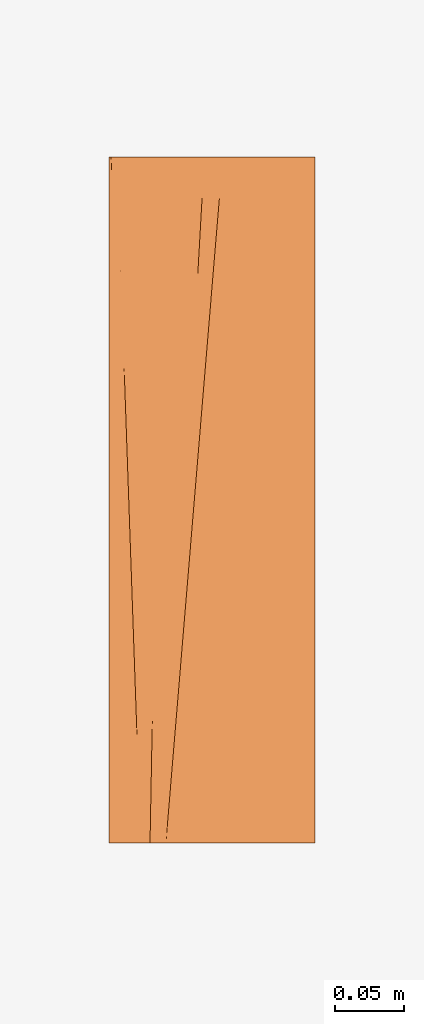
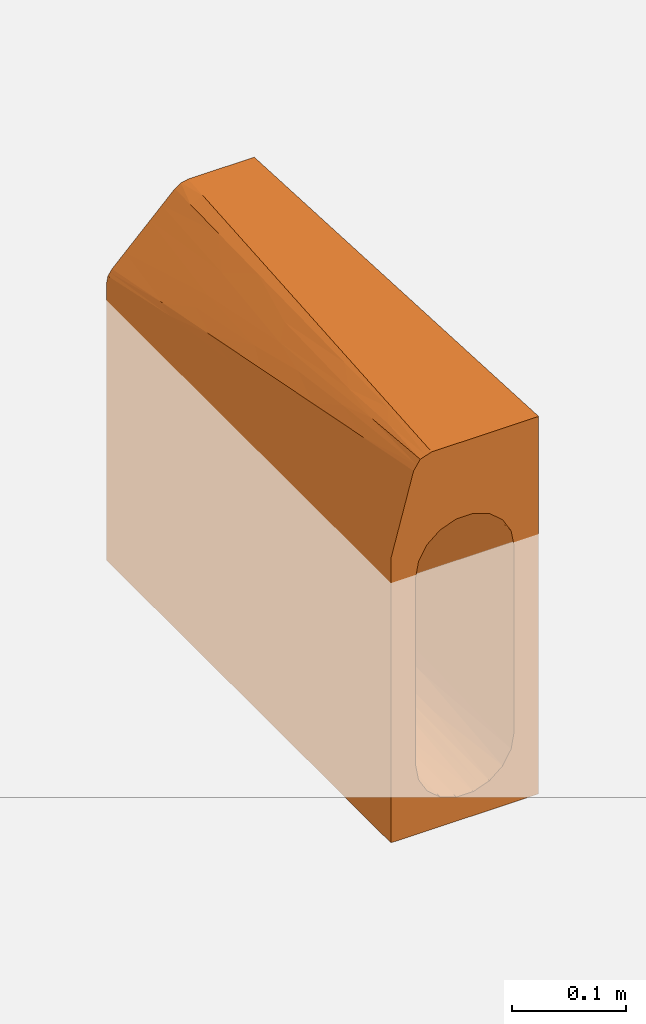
# One storey, part 2 of 2: 1 proxy.
"""IFC2X3 building model written with IfcOpenShell, lengths in millimetres."""

from ifc_helpers import new_model, entity, si_unit, converted_unit, direction, frame, origin, place, context, subcontext, project, spatial, face_set, surface_model, source, transform, mapped, material, element, save


model = new_model("IFC2X3")

# Units and contexts
model_context = context("Model", 3, precision=1e-06, world=origin(), true_north=direction((2.0, 6.12303176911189e-17, 1.0)))
context_of_model = context(None, 3, precision=1e-06, world=origin(), true_north=direction((2.0, 6.12303176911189e-17, 1.0)))
body_context = subcontext(model_context, "Body", "Model", "MODEL_VIEW")
ifc_project = project(units=[si_unit("LENGTHUNIT", "METRE", prefix="MILLI"), si_unit("AREAUNIT", "SQUARE_METRE", prefix="MILLI"), si_unit("VOLUMEUNIT", "CUBIC_METRE", prefix="MILLI"), converted_unit("PLANEANGLEUNIT", "DEGREE", entity("IfcRatioMeasure", 0.0174532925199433), si_unit("PLANEANGLEUNIT", "RADIAN"), dimensions=[0, 0, 0, 0, 0, 0, 0]), si_unit("TIMEUNIT", "SECOND")], contexts=[model_context, context_of_model])

# Site, building, storey
site_placement = place(None, origin())
site = spatial("IfcSite", under=ifc_project, at=site_placement, Name="Default", CompositionType="ELEMENT")
building_placement = place(site_placement, origin())
building = spatial("IfcBuilding", under=site, at=building_placement, CompositionType="ELEMENT")
storey_placement = place(building_placement, origin())
storey = spatial("IfcBuildingStorey", under=building, at=storey_placement, Name="Level 1", CompositionType="ELEMENT", Elevation=0.0)

# Proxy
ifc_material = material(Name="ACO Polymer Concrete.")
shared_shape = source(origin(), body_context, "Body", "SurfaceModel", [
    surface_model("IfcFaceBasedSurfaceModel", [(75.0, 500.0, 100.0), (75.0, 500.0, -280.0), (-75.0, 500.0, -280.0), (-75.0, 500.0, 17.1299423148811), (-73.5537111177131, 500.0, 24.4009275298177), (-69.435028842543, 500.0, 30.5649711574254), (-5.56497115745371, 500.0, 94.4350288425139), (0.599072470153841, 500.0, 98.5537111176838), (7.87005768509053, 500.0, 100.0), (-50.0, 500.0, -30.0), (-50.0, 500.0, -205.0), (-46.9851299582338, 500.0, -222.099636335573), (-38.296791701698, 500.0, -237.145851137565), (-25.0019398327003, 500.0, -248.300150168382), (-8.67336388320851, 500.0, -254.24198167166), (8.6857374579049, 500.0, -254.239800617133), (25.0056026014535, 500.0, -248.298035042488), (38.3111702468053, 500.0, -237.12871354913), (46.9861956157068, 500.0, -222.096707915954), (50.0, 500.0, -205.0), (50.0, 500.0, -30.0), (46.9862114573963, 500.0, -12.9033356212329), (38.3112551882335, 500.0, 2.12861226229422), (25.0056097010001, 500.0, 13.2980309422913), (8.68566893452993, 500.0, 19.2398127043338), (-8.67344575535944, 500.0, 19.2419672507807), (-25.0021080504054, 500.0, 13.3000530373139), (-38.2969351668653, 500.0, 2.14568022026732), (-46.9851482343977, 500.0, -12.9004138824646), (75.0, 0.0, 125.0), (-33.6258679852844, 0.0, 125.0), (-45.1923351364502, 0.0, 121.073713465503), (-51.9784586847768, 0.0, 110.917561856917), (-75.0, 0.0, 25.0), (-75.0, 0.0, -280.0), (75.0, 0.0, -280.0), (-50.0, 0.0, -204.99343981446), (-50.0, 0.0, -5.0), (-46.9851482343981, 0.0, 12.0995861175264), (-38.2969351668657, 0.0, 27.1456802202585), (-25.0021080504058, 0.0, 38.3000530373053), (-8.67344575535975, 0.0, 44.2419672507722), (8.68566893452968, 0.0, 44.2398127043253), (25.005609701, 0.0, 38.2980309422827), (38.3112551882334, 0.0, 27.1286122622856), (46.9862114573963, 0.0, 12.0966643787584), (50.0, 0.0, -5.0), (50.0, 0.0, -204.99343981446), (46.9861956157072, 0.0, -222.090147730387), (38.3111702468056, 0.0, -237.122153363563), (25.0056026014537, 0.0, -248.291474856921), (8.68573745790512, 0.0, -254.233240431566), (-8.67336388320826, 0.0, -254.235421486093), (-25.0019398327, 0.0, -248.293589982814), (-38.2967917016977, 0.0, -237.139290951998), (-46.9851299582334, 0.0, -222.093076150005), (-61.1748497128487, 165.941052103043, 73.0758265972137), (-59.0194489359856, 97.6032902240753, 82.5487858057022), (-58.2111543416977, 178.520117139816, 82.2284565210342), (-71.9023925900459, 246.533353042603, 33.8358139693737), (-68.177351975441, 187.299341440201, 48.3473759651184), (-68.7004168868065, 258.890102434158, 45.4053862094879), (-68.637507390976, 399.537531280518, 40.8912540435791), (-66.629058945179, 419.630018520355, 43.4808398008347), (-71.4943688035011, 500.000003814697, 27.4829495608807), (-69.4033536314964, 63.8706926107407, 45.1916274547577), (-66.0053006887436, 0.0, 58.568667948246), (-65.7489800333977, 69.4773543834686, 58.7302950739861), (-65.3078505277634, 204.403856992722, 58.103448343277), (-66.1462759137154, 299.075076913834, 52.5009650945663), (-75.0000005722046, 339.260069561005, 19.6600077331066), (-73.4050397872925, 379.44504404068, 26.7317122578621), (-75.0000005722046, 419.630018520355, 18.3949754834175), (-69.4484453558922, 129.445060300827, 44.3271271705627), (-69.9678540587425, 0.0, 43.7802219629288), (-75.0000005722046, 80.3699762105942, 23.7349679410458), (-71.0720562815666, 379.44504404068, 35.0762179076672), (-71.5252989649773, 313.97389497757, 34.5912502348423), (-61.0171240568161, 258.890084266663, 69.3125842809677), (-63.8230937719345, 339.260069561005, 56.3967120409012), (-61.0360273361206, 58.5613191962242, 76.1828771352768), (-63.0925696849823, 129.445051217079, 67.4270207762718), (-75.0000005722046, 178.520117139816, 22.1900722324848), (-57.0106053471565, 0.0, 92.1373357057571), (-62.0427473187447, 0.0, 73.3571184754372), (-54.7844285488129, 80.3699671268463, 98.0016943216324), (-63.3704142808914, 234.208705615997, 63.5202143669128), (-74.2768570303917, 500.000003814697, 20.7654339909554), (-75.0000005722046, 258.890084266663, 20.9250399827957), (-73.4289027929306, 307.994935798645, 27.1683839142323), (-10.3070823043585, 415.503235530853, 99.6003158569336), (-28.888393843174, 376.74517250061, 87.0101050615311), (-14.6574254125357, 337.987109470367, 104.338871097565), (-41.2924695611, 253.490341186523, 91.3779707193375), (-42.5695491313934, 173.548363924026, 100.699785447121), (-37.2007316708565, 139.295703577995, 109.515135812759), (-28.6904680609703, 267.534396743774, 100.720569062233), (-45.6827766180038, 372.409463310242, 71.2836122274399), (-56.1257347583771, 376.74517250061, 59.9902654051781), (-56.1558973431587, 500.000003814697, 43.8441034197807), (-66.4849816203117, 415.503235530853, 44.1440396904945), (-52.4074706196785, 278.568425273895, 76.7560071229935), (-43.5015144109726, 90.573913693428, 110.71826004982), (-48.5853974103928, 0.0, 115.995635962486), (-30.860432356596, 500.000003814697, 69.1395661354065), (-42.8767614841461, 500.000003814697, 57.1232392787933), (-18.8441043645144, 500.000003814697, 81.1558929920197), (-24.1416473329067, 168.993554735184, 114.66943602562), (-39.4090997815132, 0.0, 123.036857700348), (-28.8837565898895, 84.4967773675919, 119.834718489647), (-19.399535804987, 253.490323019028, 109.504153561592), (-48.4082279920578, 209.753911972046, 90.1202077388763), (-48.2078541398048, 131.043918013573, 100.781929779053), (-39.3227723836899, 66.6990083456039, 116.762540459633), (-54.9285058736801, 84.4967773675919, 97.3384898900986), (-63.778651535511, 337.987109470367, 56.6012825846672), (-60.8286044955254, 253.490341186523, 70.1803501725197), (-57.8785529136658, 168.993554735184, 83.7594223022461), (-19.5954200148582, 250.000001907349, 109.717512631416), (-13.387393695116, 243.860987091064, 112.806949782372), (-10.7302123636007, 275.878364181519, 111.206084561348), (-10.6971895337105, 408.552133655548, 100.025235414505), (0.0258855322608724, 405.482626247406, 104.725866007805), (2.8104392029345, 439.034757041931, 103.048261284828), (-18.4470128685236, 182.895740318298, 115.85521030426), (-15.9172027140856, 213.378363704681, 114.33108458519), (-23.1891641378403, 185.96524772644, 113.631953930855), (-7.27571074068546, 469.517380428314, 96.2984280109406), (5.34024850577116, 469.517380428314, 101.524135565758), (-26.0364399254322, 91.4478701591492, 120.427605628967), (-26.7829105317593, 121.930493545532, 117.546395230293), (-28.493650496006, 91.4478701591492, 119.409798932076), (-28.5662500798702, 60.9652467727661, 121.951740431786), (-12.4079283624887, 378.069510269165, 101.888630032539), (-2.75866808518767, 371.930495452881, 106.403479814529), (-30.2043881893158, 60.9652467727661, 121.273202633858), (-31.0960579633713, 30.4826233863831, 123.475866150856), (-31.9151281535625, 30.4826233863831, 123.136597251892), (-24.9860384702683, 153.947870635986, 115.589174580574), (-16.0016747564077, 314.034756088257, 105.803071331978), (-17.7985468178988, 282.017378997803, 107.760291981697), (-8.07303103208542, 307.895741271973, 109.605210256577), (-20.9768218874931, 152.413116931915, 117.379345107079), (-21.3922920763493, 217.982624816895, 111.674733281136), (-5.41584970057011, 339.913118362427, 108.004345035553), (-14.2048015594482, 346.052133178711, 103.845850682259), (-8.98645013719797, 439.034757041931, 98.1618317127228), (-23.5066320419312, 121.930493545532, 118.903479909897), (-32.1371644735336, 250.000001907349, 20.8040830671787), (-43.2995917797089, 323.102443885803, 3.84778362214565), (-43.2995917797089, 148.145136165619, 12.595649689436), (50.0000003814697, 250.000001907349, -17.5000003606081), (48.2975016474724, 312.500002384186, -7.68855913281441), (48.5635964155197, 151.088651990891, -0.655817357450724), (-7.85991495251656, 166.072984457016, 36.0747034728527), (-16.8377769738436, 0.0, 41.2710092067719), (32.1472474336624, 148.148115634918, 25.8882135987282), (31.6584327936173, 0.0, 32.7133216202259), (-25.7122455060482, 166.086355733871, 29.5778503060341), (-17.0978753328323, 176.901120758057, 33.1407142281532), (-32.1371622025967, 392.28572101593, 13.6897973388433), (32.1472474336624, 323.10186252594, 17.1405269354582), (31.6584327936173, 500.000003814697, 7.71332142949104), (-23.354345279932, 264.380337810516, 25.9915525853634), (17.1056033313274, 176.90382771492, 33.1377665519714), (16.8456389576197, 0.0, 41.2689199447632), (-47.886648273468, 92.3533018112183, 4.76527735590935), (-42.6410427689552, 0.0, 19.6226326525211), (-32.1371622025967, 107.714291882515, 27.9183676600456), (-48.634054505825, 342.614261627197, -10.5234333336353), (-50.0000003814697, 375.000002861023, -23.7499992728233), (44.386453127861, 383.367624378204, -1.15007003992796), (43.3059413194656, 250.000001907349, 7.49191018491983), (-50.0000003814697, 125.000010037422, -11.2500003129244), (-48.3968914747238, 187.500001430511, -1.81550765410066), (-50.0000003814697, 249.999983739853, -17.4999992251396), (-10.5195806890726, 264.380337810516, 30.6618411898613), (25.2905688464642, 360.151744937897, 20.1246187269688), (16.8456389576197, 500.000003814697, 16.2689220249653), (17.1056044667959, 351.848218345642, 24.3905465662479), (0.00620417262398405, 392.295349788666, 25.3852305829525), (0.00620417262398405, 107.704635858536, 39.6147694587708), (0.0062026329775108, 250.000001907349, 32.4999988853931), (-47.9742337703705, 0.0, 6.48971731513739), (44.1829908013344, 114.894958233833, 12.6617339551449), (-8.39260295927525, 357.883278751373, 26.3964470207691), (-16.8377769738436, 500.000003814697, 16.2710101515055), (-17.0978753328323, 351.859554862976, 24.3927925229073), (39.2495982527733, 170.041038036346, 17.4732430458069), (39.3710752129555, 332.335019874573, 9.20399397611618), (50.0000003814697, 125.000000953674, -11.2500003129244), (50.0000003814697, 375.000002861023, -23.7499992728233), (47.9745834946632, 500.000003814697, -18.510199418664), (47.8870933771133, 408.046713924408, -11.0208832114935), (-42.6410427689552, 500.000003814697, -5.37736697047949), (24.3258680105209, 108.537597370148, 33.2566659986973), (-25.2476140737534, 357.869616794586, 20.2638816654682), (24.0837861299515, 264.376050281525, 25.5986736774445), (32.1471906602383, 250.000001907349, -243.292380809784), (43.3058959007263, 322.938609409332, -229.989668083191), (43.3058959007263, 148.05226392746, -229.987378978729), (-50.0000003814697, 250.000001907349, -204.996716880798), (-48.2958393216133, 312.500002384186, -217.940185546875), (-48.5663669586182, 151.053497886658, -216.882728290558), (17.1056362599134, 148.048285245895, -251.978333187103), (0.00628533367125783, 250.000001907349, -254.996717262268), (17.1056362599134, 322.966623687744, -251.980622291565), (-32.137005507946, 148.050465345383, -243.299593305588), (50.0000003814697, 249.999983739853, -204.996716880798), (48.3979678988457, 187.500001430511, -217.55125579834), (48.6355669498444, 342.780675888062, -216.598879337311), (32.1471906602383, 392.364931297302, -243.294252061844), (-24.0688093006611, 264.511779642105, -248.822621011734), (-25.2875326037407, 360.451108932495, -248.132147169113), (-17.0977424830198, 351.973537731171, -251.9838742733), (25.2532028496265, 141.882091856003, -248.149388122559), (16.8456696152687, 0.0, -251.262352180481), (-7.86178847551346, 166.061593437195, -254.373681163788), (-16.8376520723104, 0.0, -251.264514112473), (-17.0977413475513, 177.049948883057, -251.981585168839), (32.1471906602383, 107.635063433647, -243.29052772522), (31.6583873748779, 0.0, -242.706806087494), (50.0000003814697, 375.000002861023, -204.998351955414), (-44.3882471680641, 383.35054693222, -228.013317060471), (-43.2995236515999, 250.000001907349, -229.99975104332), (23.369880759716, 235.507445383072, -249.198888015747), (0.00628379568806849, 392.338588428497, -254.998588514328), (-16.8376520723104, 500.000003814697, -251.27107257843), (-10.513217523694, 264.511743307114, -253.879143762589), (50.0000003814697, 125.000010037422, -204.995081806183), (47.9771087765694, 0.0, -216.468909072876), (-44.1956898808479, 114.99825861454, -228.377448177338), (25.7190969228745, 333.970712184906, -247.875876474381), (16.8456696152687, 500.000003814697, -251.268910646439), (-32.137005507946, 322.931524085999, -243.301900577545), (-39.2473863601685, 169.760804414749, -235.973768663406), (-39.3635902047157, 332.499108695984, -235.828101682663), (-50.0000003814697, 125.000000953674, -204.995081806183), (31.6583873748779, 500.000003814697, -242.713382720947), (0.00628379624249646, 107.661424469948, -254.994846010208), (-50.0000003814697, 375.000002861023, -204.998351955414), (-47.9767545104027, 500.000003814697, -216.475376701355), (-47.8887420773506, 408.077744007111, -219.374763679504), (47.8891917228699, 92.3344984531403, -219.369113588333), (-24.3126375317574, 108.604090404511, -248.685783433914), (-8.39683768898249, 358.118620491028, -254.288021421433), (-42.6409610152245, 500.000003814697, -229.622739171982), (-42.6409610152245, 0.0, -229.616180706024)], [face_set([[[0, 1, 2, 3, 4, 5, 6, 7, 8], [9, 10, 11, 12, 13, 14, 15, 16, 17, 18, 19, 20, 21, 22, 23, 24, 25, 26, 27, 28]], [[29, 30, 31, 32, 33, 34, 35], [36, 37, 38, 39, 40, 41, 42, 43, 44, 45, 46, 47, 48, 49, 50, 51, 52, 53, 54, 55]], [[1, 0, 29, 35]], [[2, 1, 35, 34]], [[3, 2, 34, 33]], [[56, 57, 58]], [[59, 60, 61]], [[62, 63, 64]], [[65, 66, 67]], [[68, 69, 61]], [[70, 71, 72]], [[59, 73, 60]], [[33, 74, 75]], [[76, 71, 77]], [[78, 79, 69]], [[80, 57, 81]], [[56, 81, 57]], [[82, 75, 73]], [[83, 80, 84]], [[83, 32, 85]], [[84, 80, 67]], [[65, 75, 74]], [[81, 68, 60]], [[57, 83, 85]], [[81, 60, 67]], [[81, 67, 80]], [[65, 67, 73]], [[83, 57, 80]], [[58, 57, 85]], [[58, 78, 86]], [[68, 81, 56]], [[76, 62, 4]], [[69, 68, 86]], [[61, 69, 76]], [[79, 62, 69]], [[76, 69, 62]], [[71, 87, 72]], [[68, 56, 86]], [[60, 68, 61]], [[63, 5, 64]], [[62, 64, 4]], [[88, 59, 89]], [[60, 73, 67]], [[77, 89, 59]], [[59, 82, 73]], [[82, 59, 88]], [[76, 4, 87]], [[87, 3, 72]], [[61, 77, 59]], [[87, 71, 76]], [[58, 86, 56]], [[78, 69, 86]], [[75, 65, 73]], [[62, 79, 63]], [[76, 77, 61]], [[89, 71, 70]], [[71, 89, 77]], [[88, 89, 70]], [[66, 65, 74]], [[66, 84, 67]], [[90, 91, 92]], [[93, 94, 95]], [[95, 96, 93]], [[93, 91, 97]], [[98, 99, 100]], [[101, 93, 97]], [[93, 96, 91]], [[31, 102, 103]], [[104, 105, 97]], [[91, 90, 106]], [[104, 97, 91]], [[90, 6, 106]], [[107, 96, 95]], [[108, 30, 109]], [[92, 91, 96]], [[96, 107, 110]], [[111, 112, 94]], [[109, 95, 113]], [[114, 32, 103]], [[95, 94, 102]], [[115, 98, 100]], [[101, 98, 115]], [[111, 116, 117]], [[111, 117, 112]], [[91, 106, 104]], [[102, 113, 95]], [[110, 92, 96]], [[111, 93, 101]], [[107, 95, 109]], [[102, 94, 112]], [[103, 102, 112]], [[113, 31, 108]], [[93, 111, 94]], [[101, 116, 111]], [[31, 113, 102]], [[109, 113, 108]], [[112, 117, 114]], [[114, 103, 112]], [[97, 105, 99]], [[99, 5, 100]], [[101, 97, 98]], [[99, 98, 97]], [[101, 115, 116]], [[118, 119, 120]], [[121, 122, 123]], [[124, 125, 126]], [[7, 127, 128]], [[129, 130, 131, 132]], [[122, 133, 134]], [[132, 131, 135]], [[135, 136, 132]], [[30, 136, 137]], [[138, 124, 126]], [[139, 140, 141]], [[7, 6, 127]], [[136, 135, 137]], [[138, 130, 142]], [[119, 143, 125]], [[141, 144, 139]], [[140, 118, 120]], [[134, 145, 144]], [[146, 128, 127]], [[128, 8, 7]], [[146, 123, 128]], [[129, 147, 130]], [[123, 146, 121]], [[133, 122, 121]], [[130, 147, 142]], [[124, 138, 142]], [[143, 119, 118]], [[143, 126, 125]], [[141, 140, 120]], [[145, 134, 133]], [[145, 139, 144]], [[0, 8, 30, 29]], [[36, 37, 9, 10]], [[148, 149, 150]], [[151, 152, 153]], [[41, 154, 155]], [[44, 156, 157]], [[158, 155, 159]], [[149, 148, 160]], [[161, 22, 162]], [[159, 163, 158]], [[164, 42, 165]], [[166, 167, 150]], [[40, 168, 39]], [[169, 9, 170]], [[171, 172, 152]], [[173, 174, 175]], [[163, 159, 176]], [[177, 178, 179]], [[180, 24, 25]], [[150, 174, 166]], [[181, 164, 182]], [[173, 37, 183]], [[45, 153, 184]], [[185, 186, 187]], [[184, 153, 172]], [[161, 188, 189]], [[175, 174, 169]], [[151, 153, 46, 190]], [[26, 27, 160]], [[164, 179, 182]], [[23, 177, 162]], [[171, 189, 172]], [[185, 187, 176]], [[42, 181, 41]], [[191, 192, 193]], [[28, 149, 194]], [[187, 163, 176]], [[195, 165, 43]], [[150, 39, 168]], [[26, 160, 196]], [[179, 24, 180]], [[197, 179, 164]], [[44, 184, 188]], [[156, 161, 197]], [[149, 169, 174]], [[183, 166, 173]], [[149, 174, 150]], [[149, 27, 194]], [[9, 169, 28]], [[152, 151, 191]], [[191, 20, 192]], [[193, 171, 152]], [[172, 153, 152]], [[46, 153, 45]], [[21, 22, 171]], [[22, 161, 189]], [[188, 184, 172]], [[44, 45, 184]], [[22, 189, 171]], [[188, 161, 156]], [[189, 188, 172]], [[188, 156, 44]], [[155, 158, 40]], [[170, 175, 169]], [[150, 168, 148]], [[160, 27, 149]], [[148, 163, 196]], [[25, 186, 185]], [[179, 180, 182]], [[181, 42, 164]], [[182, 176, 154]], [[41, 181, 154]], [[149, 28, 169]], [[43, 157, 195]], [[177, 179, 197]], [[196, 163, 187]], [[196, 186, 26]], [[158, 148, 168]], [[148, 158, 163]], [[40, 158, 168]], [[196, 187, 186]], [[148, 196, 160]], [[154, 176, 159]], [[185, 182, 180]], [[154, 159, 155]], [[182, 154, 181]], [[182, 185, 176]], [[25, 185, 180]], [[197, 164, 195]], [[167, 39, 150]], [[24, 179, 178]], [[177, 197, 161]], [[162, 177, 161]], [[178, 177, 23]], [[195, 157, 156]], [[166, 183, 38]], [[166, 38, 167]], [[173, 166, 174]], [[193, 192, 21]], [[171, 193, 21]], [[191, 193, 152]], [[197, 195, 156]], [[165, 195, 164]], [[46, 47, 19, 20]], [[198, 199, 200]], [[201, 202, 203]], [[204, 205, 206]], [[53, 54, 207]], [[208, 209, 210]], [[199, 198, 211]], [[212, 213, 214]], [[215, 216, 204]], [[217, 218, 219]], [[49, 200, 48]], [[220, 49, 221]], [[210, 19, 222]], [[223, 224, 202]], [[215, 204, 225]], [[206, 205, 226]], [[213, 227, 214]], [[226, 14, 15]], [[225, 204, 206]], [[219, 228, 217]], [[229, 47, 230]], [[55, 203, 231]], [[232, 233, 16]], [[231, 203, 224]], [[234, 235, 236]], [[206, 15, 233]], [[201, 203, 36, 237]], [[211, 16, 238]], [[212, 228, 219]], [[234, 12, 13]], [[223, 236, 224]], [[229, 209, 208]], [[52, 239, 51]], [[240, 241, 242]], [[17, 18, 199]], [[200, 209, 243]], [[244, 218, 53]], [[204, 51, 239]], [[200, 49, 220]], [[14, 226, 245]], [[214, 228, 212]], [[212, 244, 207]], [[207, 234, 212]], [[199, 210, 209]], [[230, 243, 229]], [[199, 209, 200]], [[199, 18, 210]], [[19, 210, 18]], [[202, 201, 240]], [[240, 10, 241]], [[242, 223, 202]], [[224, 203, 202]], [[36, 203, 55]], [[11, 246, 12, 223]], [[236, 12, 234]], [[235, 231, 224]], [[55, 231, 54, 247]], [[236, 223, 12]], [[235, 234, 207]], [[236, 235, 224]], [[54, 235, 207]], [[50, 216, 215]], [[222, 208, 210]], [[200, 220, 198]], [[199, 211, 17]], [[198, 225, 232]], [[226, 15, 206]], [[205, 228, 245]], [[218, 217, 52]], [[204, 239, 205]], [[16, 211, 232]], [[244, 53, 207]], [[232, 225, 206]], [[51, 204, 216]], [[215, 198, 220]], [[232, 206, 233]], [[198, 232, 211]], [[198, 215, 225]], [[50, 215, 220]], [[245, 228, 214]], [[14, 245, 227]], [[217, 205, 239]], [[205, 217, 228]], [[52, 217, 239]], [[245, 214, 227]], [[205, 245, 226]], [[212, 219, 244]], [[213, 212, 234]], [[234, 13, 213]], [[227, 213, 13]], [[243, 230, 48]], [[200, 243, 48]], [[229, 243, 209]], [[242, 241, 11]], [[223, 242, 11]], [[240, 242, 202]], [[54, 231, 235]], [[221, 50, 220]], [[17, 211, 238]], [[218, 244, 219]]])]),
])
proxy_placement = place(storey_placement, frame((-13330.2750822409, -1412.72179195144, 0.0)))
element("IfcBuildingElementProxy", 1, at=proxy_placement, inside=storey, material=ifc_material, Name="Civil-Drainage-Channel-ACO-KerbDrain-SP380:4246 - RH transition kerb - 500mm LG:4246 - RH transition kerb - 500mm LG", ObjectType="4246 - RH transition kerb - 500mm LG", CompositionType="ELEMENT", context=body_context, shape_type="MappedRepresentation", body=[
    mapped(shared_shape, transform((0.0, 0.0, 0.0), scale=1.0)),
])

save(model, "model.ifc")
